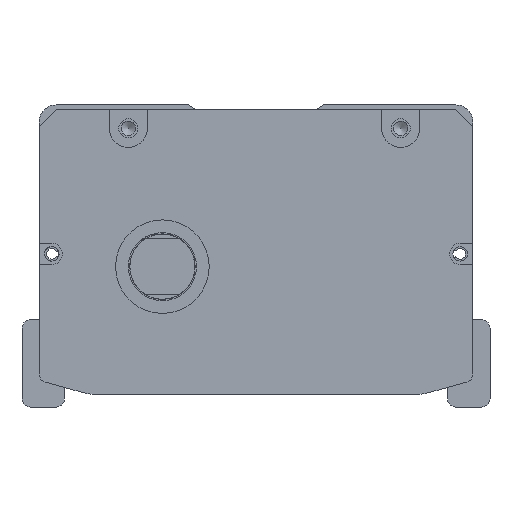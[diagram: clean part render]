
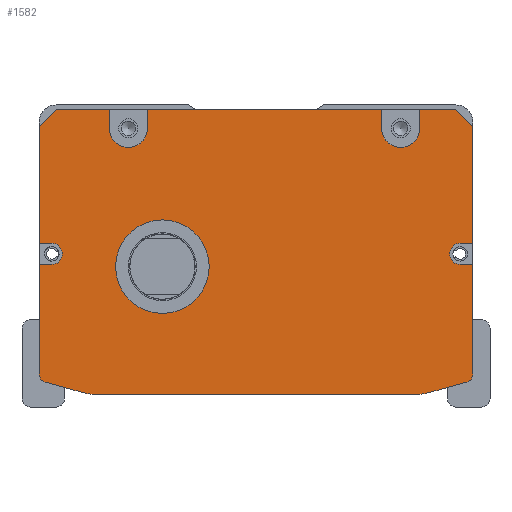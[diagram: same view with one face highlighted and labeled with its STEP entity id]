
A CAD part, front view. The second image highlights one B-rep face of the part: STEP entity #1582.
In plain terms, the highlighted planar face has unit normal (0, -1, 0).
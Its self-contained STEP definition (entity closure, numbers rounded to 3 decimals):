
#958=FACE_BOUND('',#3010,.T.);
#959=FACE_BOUND('',#3011,.T.);
#1582=ADVANCED_FACE('',(#958,#959),#2173,.F.);
#2173=PLANE('',#11715);
#3010=EDGE_LOOP('',(#5327,#5328,#5329,#5330,#5331,#5332,#5333,#5334,#5335,
#5336,#5337,#5338,#5339,#5340,#5341,#5342,#5343,#5344,#5345,#5346,#5347,
#5348,#5349,#5350,#5351,#5352,#5353,#5354));
#3011=EDGE_LOOP('',(#5355));
#3941=CIRCLE('',#11706,4.5);
#3942=CIRCLE('',#11707,4.5);
#3943=CIRCLE('',#11708,2.5);
#3944=CIRCLE('',#11709,2.);
#3945=CIRCLE('',#11710,10.);
#3946=CIRCLE('',#11711,10.);
#3947=CIRCLE('',#11712,2.);
#3948=CIRCLE('',#11713,2.5);
#3949=CIRCLE('',#11714,11.);
#5327=ORIENTED_EDGE('',*,*,#8620,.T.);
#5328=ORIENTED_EDGE('',*,*,#9034,.T.);
#5329=ORIENTED_EDGE('',*,*,#9035,.T.);
#5330=ORIENTED_EDGE('',*,*,#9036,.F.);
#5331=ORIENTED_EDGE('',*,*,#9037,.T.);
#5332=ORIENTED_EDGE('',*,*,#9038,.F.);
#5333=ORIENTED_EDGE('',*,*,#9039,.T.);
#5334=ORIENTED_EDGE('',*,*,#9040,.F.);
#5335=ORIENTED_EDGE('',*,*,#9041,.T.);
#5336=ORIENTED_EDGE('',*,*,#9042,.F.);
#5337=ORIENTED_EDGE('',*,*,#9043,.T.);
#5338=ORIENTED_EDGE('',*,*,#9044,.T.);
#5339=ORIENTED_EDGE('',*,*,#8652,.T.);
#5340=ORIENTED_EDGE('',*,*,#9045,.T.);
#5341=ORIENTED_EDGE('',*,*,#9046,.T.);
#5342=ORIENTED_EDGE('',*,*,#9047,.T.);
#5343=ORIENTED_EDGE('',*,*,#8648,.T.);
#5344=ORIENTED_EDGE('',*,*,#9048,.T.);
#5345=ORIENTED_EDGE('',*,*,#9049,.T.);
#5346=ORIENTED_EDGE('',*,*,#9050,.T.);
#5347=ORIENTED_EDGE('',*,*,#9051,.T.);
#5348=ORIENTED_EDGE('',*,*,#9052,.T.);
#5349=ORIENTED_EDGE('',*,*,#9053,.T.);
#5350=ORIENTED_EDGE('',*,*,#9054,.T.);
#5351=ORIENTED_EDGE('',*,*,#8624,.T.);
#5352=ORIENTED_EDGE('',*,*,#9055,.T.);
#5353=ORIENTED_EDGE('',*,*,#9056,.T.);
#5354=ORIENTED_EDGE('',*,*,#9057,.T.);
#5355=ORIENTED_EDGE('',*,*,#9058,.T.);
#7510=VERTEX_POINT('',#16116);
#7511=VERTEX_POINT('',#16118);
#7514=VERTEX_POINT('',#16124);
#7515=VERTEX_POINT('',#16126);
#7536=VERTEX_POINT('',#16171);
#7537=VERTEX_POINT('',#16173);
#7540=VERTEX_POINT('',#16179);
#7541=VERTEX_POINT('',#16181);
#7802=VERTEX_POINT('',#16970);
#7803=VERTEX_POINT('',#16972);
#7804=VERTEX_POINT('',#16974);
#7805=VERTEX_POINT('',#16976);
#7806=VERTEX_POINT('',#16978);
#7807=VERTEX_POINT('',#16980);
#7808=VERTEX_POINT('',#16982);
#7809=VERTEX_POINT('',#16984);
#7810=VERTEX_POINT('',#16986);
#7811=VERTEX_POINT('',#16988);
#7812=VERTEX_POINT('',#16991);
#7813=VERTEX_POINT('',#16993);
#7814=VERTEX_POINT('',#16996);
#7815=VERTEX_POINT('',#16998);
#7816=VERTEX_POINT('',#17000);
#7817=VERTEX_POINT('',#17002);
#7818=VERTEX_POINT('',#17004);
#7819=VERTEX_POINT('',#17006);
#7820=VERTEX_POINT('',#17009);
#7821=VERTEX_POINT('',#17011);
#7822=VERTEX_POINT('',#17014);
#8620=EDGE_CURVE('',#7511,#7510,#10055,.T.);
#8624=EDGE_CURVE('',#7515,#7514,#10059,.T.);
#8648=EDGE_CURVE('',#7537,#7536,#10083,.T.);
#8652=EDGE_CURVE('',#7541,#7540,#10087,.T.);
#9034=EDGE_CURVE('',#7510,#7802,#10320,.T.);
#9035=EDGE_CURVE('',#7802,#7803,#10321,.T.);
#9036=EDGE_CURVE('',#7804,#7803,#10322,.T.);
#9037=EDGE_CURVE('',#7804,#7805,#3941,.T.);
#9038=EDGE_CURVE('',#7806,#7805,#10323,.T.);
#9039=EDGE_CURVE('',#7806,#7807,#10324,.T.);
#9040=EDGE_CURVE('',#7808,#7807,#10325,.T.);
#9041=EDGE_CURVE('',#7808,#7809,#3942,.T.);
#9042=EDGE_CURVE('',#7810,#7809,#10326,.T.);
#9043=EDGE_CURVE('',#7810,#7811,#10327,.T.);
#9044=EDGE_CURVE('',#7811,#7541,#10328,.T.);
#9045=EDGE_CURVE('',#7540,#7812,#10329,.T.);
#9046=EDGE_CURVE('',#7812,#7813,#3943,.T.);
#9047=EDGE_CURVE('',#7813,#7537,#10330,.T.);
#9048=EDGE_CURVE('',#7536,#7814,#3944,.T.);
#9049=EDGE_CURVE('',#7814,#7815,#10331,.T.);
#9050=EDGE_CURVE('',#7815,#7816,#3945,.T.);
#9051=EDGE_CURVE('',#7816,#7817,#10332,.T.);
#9052=EDGE_CURVE('',#7817,#7818,#3946,.T.);
#9053=EDGE_CURVE('',#7818,#7819,#10333,.T.);
#9054=EDGE_CURVE('',#7819,#7515,#3947,.T.);
#9055=EDGE_CURVE('',#7514,#7820,#10334,.T.);
#9056=EDGE_CURVE('',#7820,#7821,#3948,.T.);
#9057=EDGE_CURVE('',#7821,#7511,#10335,.T.);
#9058=EDGE_CURVE('',#7822,#7822,#3949,.T.);
#10055=LINE('',#16117,#10708);
#10059=LINE('',#16125,#10712);
#10083=LINE('',#16172,#10736);
#10087=LINE('',#16180,#10740);
#10320=LINE('',#16969,#10973);
#10321=LINE('',#16971,#10974);
#10322=LINE('',#16973,#10975);
#10323=LINE('',#16977,#10976);
#10324=LINE('',#16979,#10977);
#10325=LINE('',#16981,#10978);
#10326=LINE('',#16985,#10979);
#10327=LINE('',#16987,#10980);
#10328=LINE('',#16989,#10981);
#10329=LINE('',#16990,#10982);
#10330=LINE('',#16994,#10983);
#10331=LINE('',#16997,#10984);
#10332=LINE('',#17001,#10985);
#10333=LINE('',#17005,#10986);
#10334=LINE('',#17008,#10987);
#10335=LINE('',#17012,#10988);
#10708=VECTOR('',#12870,1.);
#10712=VECTOR('',#12874,1.);
#10736=VECTOR('',#12900,1.);
#10740=VECTOR('',#12904,1.);
#10973=VECTOR('',#13727,1.);
#10974=VECTOR('',#13728,1.);
#10975=VECTOR('',#13729,1.);
#10976=VECTOR('',#13732,1.);
#10977=VECTOR('',#13733,1.);
#10978=VECTOR('',#13734,1.);
#10979=VECTOR('',#13737,1.);
#10980=VECTOR('',#13738,1.);
#10981=VECTOR('',#13739,1.);
#10982=VECTOR('',#13740,1.);
#10983=VECTOR('',#13743,1.);
#10984=VECTOR('',#13746,1.);
#10985=VECTOR('',#13749,1.);
#10986=VECTOR('',#13752,1.);
#10987=VECTOR('',#13755,1.);
#10988=VECTOR('',#13758,1.);
#11706=AXIS2_PLACEMENT_3D('',#16975,#13730,#13731);
#11707=AXIS2_PLACEMENT_3D('',#16983,#13735,#13736);
#11708=AXIS2_PLACEMENT_3D('',#16992,#13741,#13742);
#11709=AXIS2_PLACEMENT_3D('',#16995,#13744,#13745);
#11710=AXIS2_PLACEMENT_3D('',#16999,#13747,#13748);
#11711=AXIS2_PLACEMENT_3D('',#17003,#13750,#13751);
#11712=AXIS2_PLACEMENT_3D('',#17007,#13753,#13754);
#11713=AXIS2_PLACEMENT_3D('',#17010,#13756,#13757);
#11714=AXIS2_PLACEMENT_3D('',#17013,#13759,#13760);
#11715=AXIS2_PLACEMENT_3D('',#17015,#13761,#13762);
#12870=DIRECTION('',(0.,0.,1.));
#12874=DIRECTION('',(0.,0.,1.));
#12900=DIRECTION('',(0.,0.,-1.));
#12904=DIRECTION('',(0.,0.,-1.));
#13727=DIRECTION('',(-0.707,0.,0.707));
#13728=DIRECTION('',(-1.,0.,0.));
#13729=DIRECTION('',(0.,0.,1.));
#13730=DIRECTION('',(0.,1.,0.));
#13731=DIRECTION('',(0.,0.,1.));
#13732=DIRECTION('',(0.,0.,-1.));
#13733=DIRECTION('',(-1.,0.,0.));
#13734=DIRECTION('',(0.,0.,1.));
#13735=DIRECTION('',(0.,1.,0.));
#13736=DIRECTION('',(0.,0.,1.));
#13737=DIRECTION('',(0.,0.,-1.));
#13738=DIRECTION('',(-1.,0.,0.));
#13739=DIRECTION('',(-0.707,0.,-0.707));
#13740=DIRECTION('',(1.,0.,0.));
#13741=DIRECTION('',(0.,1.,0.));
#13742=DIRECTION('',(0.,0.,1.));
#13743=DIRECTION('',(-1.,0.,0.));
#13744=DIRECTION('',(0.,-1.,0.));
#13745=DIRECTION('',(0.,0.,1.));
#13746=DIRECTION('',(0.963,0.,-0.269));
#13747=DIRECTION('',(0.,-1.,0.));
#13748=DIRECTION('',(0.,0.,1.));
#13749=DIRECTION('',(1.,0.,0.));
#13750=DIRECTION('',(0.,-1.,0.));
#13751=DIRECTION('',(0.,0.,-1.));
#13752=DIRECTION('',(0.963,0.,0.269));
#13753=DIRECTION('',(0.,-1.,0.));
#13754=DIRECTION('',(0.,0.,-1.));
#13755=DIRECTION('',(-1.,0.,0.));
#13756=DIRECTION('',(0.,1.,0.));
#13757=DIRECTION('',(0.,0.,1.));
#13758=DIRECTION('',(1.,0.,0.));
#13759=DIRECTION('',(0.,1.,0.));
#13760=DIRECTION('',(0.,0.,1.));
#13761=DIRECTION('',(0.,1.,0.));
#13762=DIRECTION('',(1.,0.,0.));
#16116=CARTESIAN_POINT('',(47.808,-307.5,-5.));
#16117=CARTESIAN_POINT('',(47.808,-307.5,-1.));
#16118=CARTESIAN_POINT('',(47.808,-307.5,-32.5));
#16124=CARTESIAN_POINT('',(47.808,-307.5,-37.5));
#16125=CARTESIAN_POINT('',(47.808,-307.5,-1.));
#16126=CARTESIAN_POINT('',(47.808,-307.5,-63.212));
#16171=CARTESIAN_POINT('',(-54.192,-307.5,-63.212));
#16172=CARTESIAN_POINT('',(-54.192,-307.5,-62.));
#16173=CARTESIAN_POINT('',(-54.192,-307.5,-37.5));
#16179=CARTESIAN_POINT('',(-54.192,-307.5,-32.5));
#16180=CARTESIAN_POINT('',(-54.192,-307.5,-62.));
#16181=CARTESIAN_POINT('',(-54.192,-307.5,-5.));
#16969=CARTESIAN_POINT('',(43.808,-307.5,-1.));
#16970=CARTESIAN_POINT('',(43.808,-307.5,-1.));
#16971=CARTESIAN_POINT('',(-3.192,-307.5,-1.));
#16972=CARTESIAN_POINT('',(35.308,-307.5,-1.));
#16973=CARTESIAN_POINT('',(35.308,-307.5,-1.));
#16974=CARTESIAN_POINT('',(35.308,-307.5,-5.5));
#16975=CARTESIAN_POINT('',(30.808,-307.5,-5.5));
#16976=CARTESIAN_POINT('',(26.308,-307.5,-5.5));
#16977=CARTESIAN_POINT('',(26.308,-307.5,-1.));
#16978=CARTESIAN_POINT('',(26.308,-307.5,-1.));
#16979=CARTESIAN_POINT('',(-54.192,-307.5,-1.));
#16980=CARTESIAN_POINT('',(-28.692,-307.5,-1.));
#16981=CARTESIAN_POINT('',(-28.692,-307.5,-3.5));
#16982=CARTESIAN_POINT('',(-28.692,-307.5,-5.5));
#16983=CARTESIAN_POINT('',(-33.192,-307.5,-5.5));
#16984=CARTESIAN_POINT('',(-37.692,-307.5,-5.5));
#16985=CARTESIAN_POINT('',(-37.692,-307.5,-1.));
#16986=CARTESIAN_POINT('',(-37.692,-307.5,-1.));
#16987=CARTESIAN_POINT('',(-54.192,-307.5,-1.));
#16988=CARTESIAN_POINT('',(-50.192,-307.5,-1.));
#16989=CARTESIAN_POINT('',(-54.192,-307.5,-5.));
#16990=CARTESIAN_POINT('',(-3.192,-307.5,-32.5));
#16991=CARTESIAN_POINT('',(-51.192,-307.5,-32.5));
#16992=CARTESIAN_POINT('',(-51.192,-307.5,-35.));
#16993=CARTESIAN_POINT('',(-51.192,-307.5,-37.5));
#16994=CARTESIAN_POINT('',(-3.192,-307.5,-37.5));
#16995=CARTESIAN_POINT('',(-52.192,-307.5,-63.212));
#16996=CARTESIAN_POINT('',(-52.731,-307.5,-65.138));
#16997=CARTESIAN_POINT('',(-55.807,-307.5,-64.279));
#16998=CARTESIAN_POINT('',(-43.809,-307.5,-67.631));
#16999=CARTESIAN_POINT('',(-41.118,-307.5,-58.));
#17000=CARTESIAN_POINT('',(-41.118,-307.5,-68.));
#17001=CARTESIAN_POINT('',(-54.692,-307.5,-68.));
#17002=CARTESIAN_POINT('',(34.733,-307.5,-68.));
#17003=CARTESIAN_POINT('',(34.733,-307.5,-58.));
#17004=CARTESIAN_POINT('',(37.424,-307.5,-67.631));
#17005=CARTESIAN_POINT('',(49.422,-307.5,-64.279));
#17006=CARTESIAN_POINT('',(46.346,-307.5,-65.138));
#17007=CARTESIAN_POINT('',(45.808,-307.5,-63.212));
#17008=CARTESIAN_POINT('',(-3.192,-307.5,-37.5));
#17009=CARTESIAN_POINT('',(44.808,-307.5,-37.5));
#17010=CARTESIAN_POINT('',(44.808,-307.5,-35.));
#17011=CARTESIAN_POINT('',(44.808,-307.5,-32.5));
#17012=CARTESIAN_POINT('',(-3.192,-307.5,-32.5));
#17013=CARTESIAN_POINT('',(-25.192,-307.5,-38.));
#17014=CARTESIAN_POINT('',(-25.192,-307.5,-27.));
#17015=CARTESIAN_POINT('',(-3.192,-307.5,-1.));
